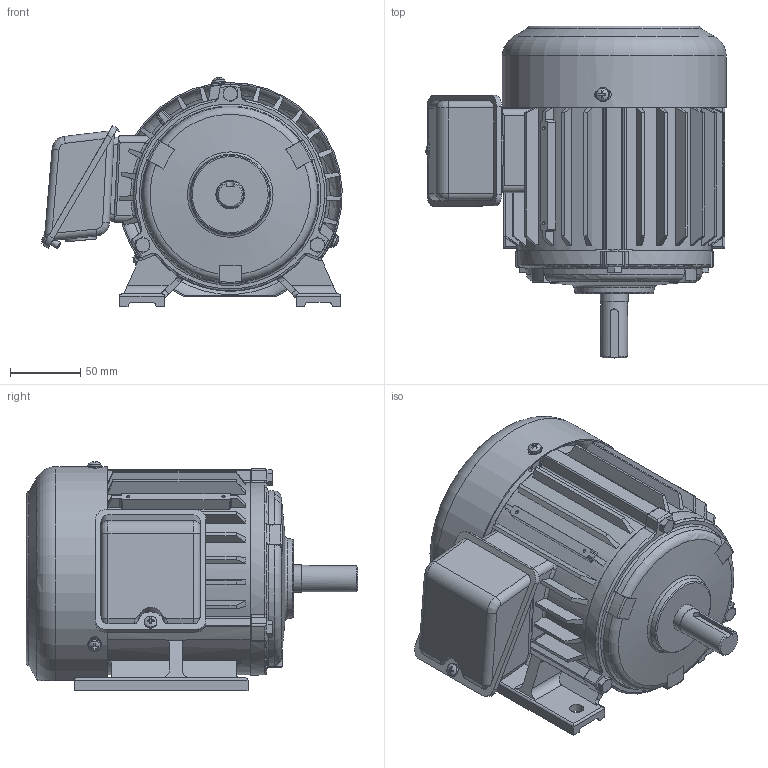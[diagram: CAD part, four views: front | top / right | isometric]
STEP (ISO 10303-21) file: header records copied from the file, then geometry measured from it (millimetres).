
FILE_DESCRIPTION(/* description */ ('Unknown'),/* implementation_level */ '2;1');
FILE_NAME(/* name */ '1-SMA-31975_외형도(130DIA)',/* time_stamp */ '2026-07-24T08:03:49+09:00',/* author */ ('Unknown'),/* organization */ ('Unknown'),/* preprocessor_version */ 'ST-DEVELOPER v16',/* originating_system */ 'DEX',/* authorisation */ $);
FILE_SCHEMA (('AUTOMOTIVE_DESIGN {1 0 10303 214 3 1 1}'));
Length unit declared in the file: millimetre
Products named in the file (23): 1-SMA-31975_寇屈档(130DI; 2-SMA-30838_FRAME(130DIA); 3-SMA-30839_擅粽塭鰍(130D; 4-SMA-30840_菴粽塭鰍(130D; 5-SMA-30841_SHAFT(130DIA); 6-SMA-31241_FAN(120DIA~140DIA); 7-SMA-30641_FAN COVER(130DIA); SMA33038,33039_攪嘐割 ; 8-SMA-33038_T-BOX(鼻)(120,140DIA); 9-SMA-33039_T-BOX(窍)(120~140DIA)_齥; T-BOX 憶っ(120~160DIA; T-BOX 歜衛 馨檜綰斜楠萄(120~; 褊濠 菅斬 該葬 獐お M5x; 幫陝獐お M6x1x; 6204ZZ; 6203ZZ; RT CORE REAR; SMA-31512_RT CORE(130DIA); 幫陝獐お M6x1x25L_m5L_mir2; 敲罚瘤 绞磊  杭飘 M5x0; RT CORE FRONT; SMA-31512_ST CORE(130DIA); 蹴辨 S1
Assembly tree (28 placements, depth 3):
  1-SMA-31975_寇屈档(130DI
    2-SMA-30838_FRAME(130DIA)
    3-SMA-30839_擅粽塭鰍(130D
    4-SMA-30840_菴粽塭鰍(130D
    5-SMA-30841_SHAFT(130DIA)
    6-SMA-31241_FAN(120DIA~140DIA)
    7-SMA-30641_FAN COVER(130DIA)
    SMA33038,33039_攪嘐割 
      8-SMA-33038_T-BOX(鼻)(120,140DIA)
      9-SMA-33039_T-BOX(窍)(120~140DIA)_齥
      T-BOX 憶っ(120~160DIA
      T-BOX 歜衛 馨檜綰斜楠萄(120~
      褊濠 菅斬 該葬 獐お M5x
    幫陝獐お M6x1x  x3
    6204ZZ
    6203ZZ
    RT CORE REAR
    SMA-31512_RT CORE(130DIA)
    幫陝獐お M6x1x25L_m5L_mir2  x3
    敲罚瘤 绞磊  杭飘 M5x0  x3
    RT CORE FRONT
    SMA-31512_ST CORE(130DIA)
    蹴辨 S1
Bounding box: 214.47 x 236.99 x 163.68 mm (x, y, z)
Volume: 1355679.4 mm3; surface area: 643999.9 mm2
Topology: 50 solids, 53 shells, 2288 faces, 6057 edges, 3874 vertices
Faces by surface type: plane 859, cylinder 647, cone 322, torus 270, bspline 154, sphere 36
Full cylindrical faces by diameter (mm): 1.7 x2, 2.2 x2, 4.134 x3, 4.917 x12, 5 x11, 6 x17, 8 x6, 9 x4, 10 x7, 14.1 x1, 14.2 x1, 16.8 x1, 17 x2, 17.6 x1, 19 x1, 19.8 x1, 20 x3, 20.1 x1, 20.6 x1, 22 x2, 23 x1, 23.571 x2, 23.971 x2, 27.714 x2, 28.114 x2, 29 x2, 33 x2, 33.029 x2, 33.429 x2, 38.886 x2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
Entity records: 88319 total; most frequent: CARTESIAN_POINT 33169, ORIENTED_EDGE 10792, DIRECTION 10277, EDGE_CURVE 5396, AXIS2_PLACEMENT_3D 4020, VERTEX_POINT 3580, FACE_BOUND 2628, EDGE_LOOP 2604
